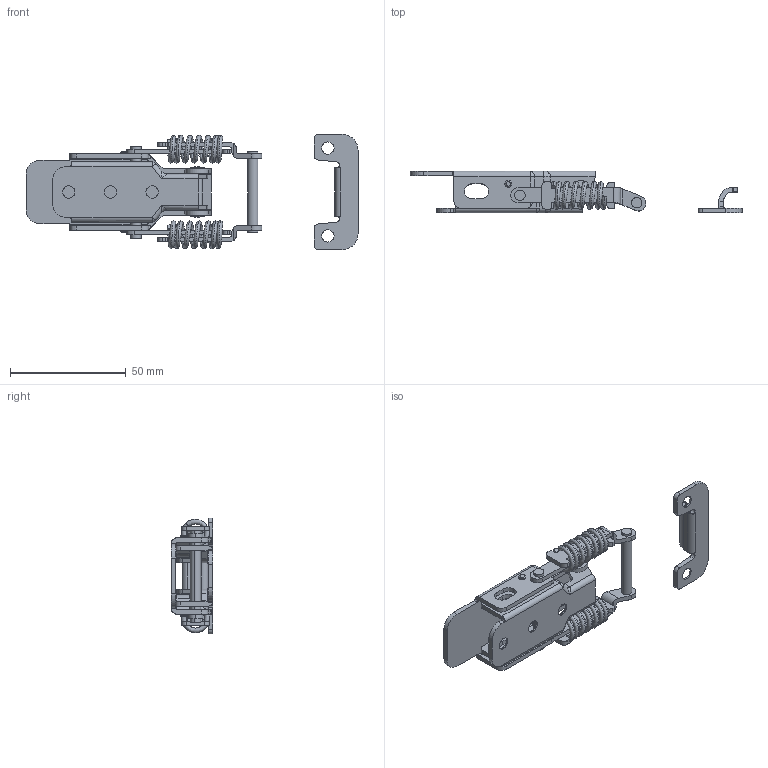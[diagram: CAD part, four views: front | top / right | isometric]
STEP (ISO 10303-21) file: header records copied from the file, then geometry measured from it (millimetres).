
FILE_DESCRIPTION (( 'STEP AP203' ), '1' );
FILE_NAME ('SK3-014.STEP', '2018-06-14T03:27:33', ( 'admin' ), ( 'Microsoft' ), 'SwSTEP 2.0', 'SolidWorks 2015', '' );
FILE_SCHEMA (( 'CONFIG_CONTROL_DESIGN' ));
Length unit declared in the file: millimetre
Products named in the file (11): SK3-014  參忒; SK3-014 种隊酗; SK3-014 粟銅; SK3-014 ͷ; SK3-014 种隊2; SK3-014; SK3-014 蜇璃1; SK3-014 蜇璃2; SK3-014 蜇璃3; SK3-014 菁釱; SK3-014 种隊
Assembly tree (12 placements, depth 2):
  SK3-014
    SK3-014 菁釱
    SK3-014  參忒
    SK3-014 蜇璃1  x2
    SK3-014 蜇璃2
    SK3-014 蜇璃3
    SK3-014 种隊
    SK3-014 种隊酗
    SK3-014 粟銅  x2
    SK3-014 ͷ
    SK3-014 种隊2
Bounding box: 143.5 x 18 x 50 mm (x, y, z)
Volume: 17836.7 mm3; surface area: 22147 mm2
Topology: 12 solids, 12 shells, 369 faces, 961 edges, 610 vertices
Faces by surface type: cylinder 179, plane 148, bspline 20, cone 10, sphere 6, torus 6
Entity records: 20157 total; most frequent: CARTESIAN_POINT 10323, DIRECTION 1828, ORIENTED_EDGE 1800, EDGE_CURVE 900, AXIS2_PLACEMENT_3D 669, VERTEX_POINT 576, VECTOR 490, LINE 490
